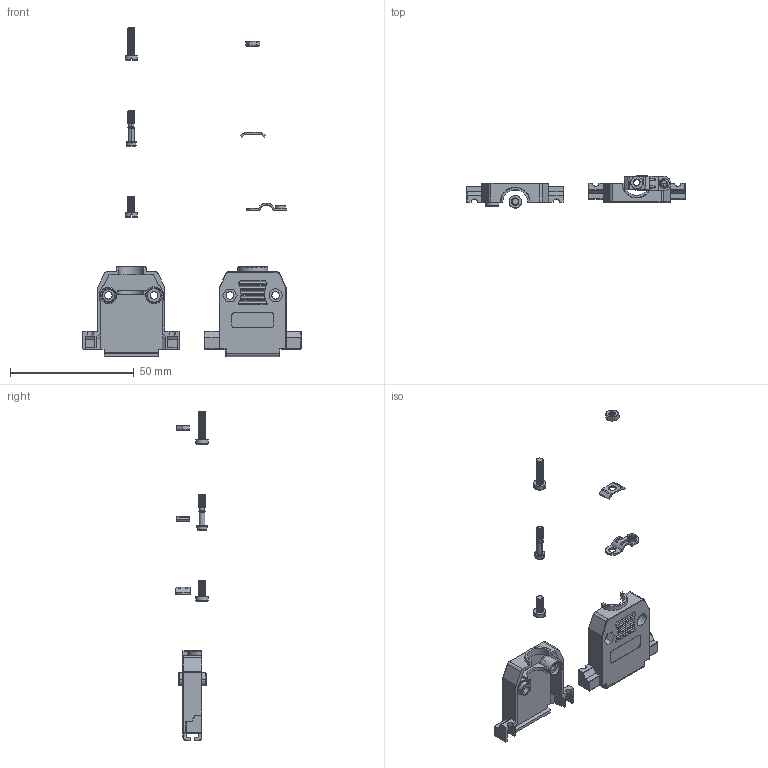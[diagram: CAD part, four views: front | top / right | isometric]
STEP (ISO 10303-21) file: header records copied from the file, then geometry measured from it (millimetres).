
FILE_DESCRIPTION((''),'2;1');
FILE_NAME('ASM0023_ASM','2024-05-17T17:15:59',('lingjiamin'),(''),'CREO PARAMETRIC BY PTC INC, 2022073','CREO PARAMETRIC BY PTC INC, 2022073','');
FILE_SCHEMA(('CONFIG_CONTROL_DESIGN'));
Products named in the file (9): DHP-15P-BK-HOUSING; PRT0056; DHP-15P-BK-SCREW2; PRT0062; DHP-15P-BK-SCREW; DHP-15P-BK-GUDINGPIAN; PRT0063; PRT0064; ASM0023_ASM
Assembly tree (8 placements, depth 2):
  ASM0023_ASM
    DHP-15P-BK-HOUSING
    PRT0056
    DHP-15P-BK-SCREW2
    PRT0062
    DHP-15P-BK-SCREW
    DHP-15P-BK-GUDINGPIAN
    PRT0063
    PRT0064
Bounding box: 88.4 x 13.1 x 133.2 mm (x, y, z)
Volume: 4772.9 mm3; surface area: 9211.8 mm2
Topology: 8 solids, 8 shells, 785 faces, 2158 edges, 1393 vertices
Faces by surface type: plane 336, cylinder 265, bspline 96, torus 56, cone 19, sphere 12, extrusion 1
Entity records: 54995 total; most frequent: CARTESIAN_POINT 35688, ORIENTED_EDGE 4284, DIRECTION 3579, EDGE_CURVE 2142, VERTEX_POINT 1393, AXIS2_PLACEMENT_3D 1228, VECTOR 1123, LINE 1122
